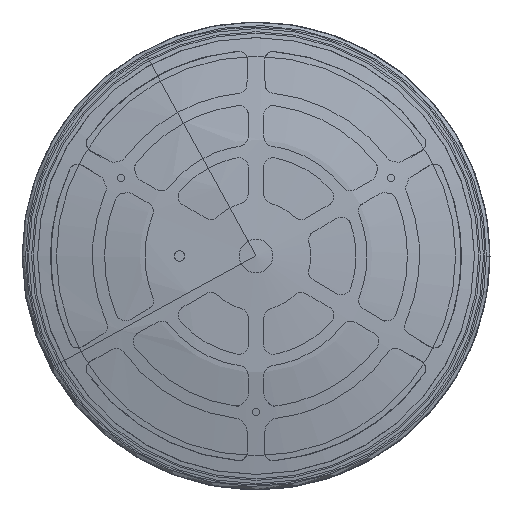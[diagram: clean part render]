
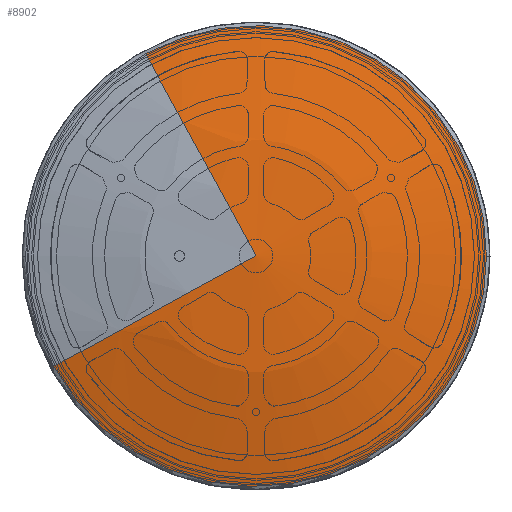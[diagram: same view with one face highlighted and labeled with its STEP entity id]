
A CAD part, top view. The second image highlights one B-rep face of the part: STEP entity #8902.
In plain terms, the highlighted spherical face has radius 285 mm.
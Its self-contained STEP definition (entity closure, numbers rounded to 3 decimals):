
#8801=CARTESIAN_POINT('Vertex',(-35.41,64.817,12.263)) ;
#8804=CARTESIAN_POINT('Axis2P3D Location',(0.,0.,12.263)) ;
#8808=CARTESIAN_POINT('Vertex',(64.817,35.41,12.263)) ;
#8811=CARTESIAN_POINT('Axis2P3D Location',(0.,0.,12.263)) ;
#8815=CARTESIAN_POINT('Vertex',(73.859,0.,12.263)) ;
#8837=CARTESIAN_POINT('Axis2P3D Location',(0.,0.,12.263)) ;
#8841=CARTESIAN_POINT('Vertex',(35.41,-64.817,12.263)) ;
#8844=CARTESIAN_POINT('Axis2P3D Location',(0.,0.,12.263)) ;
#8848=CARTESIAN_POINT('Vertex',(-64.817,-35.41,12.263)) ;
#8870=CARTESIAN_POINT('Axis2P3D Location',(0.,0.,-263.)) ;
#8874=CARTESIAN_POINT('Vertex',(0.,0.,22.)) ;
#8877=CARTESIAN_POINT('Axis2P3D Location',(0.,0.,-263.)) ;
#8889=CARTESIAN_POINT('Axis2P3D Location',(0.,0.,-263.)) ;
#8805=DIRECTION('Axis2P3D Direction',(0.,0.,-1.)) ;
#8812=DIRECTION('Axis2P3D Direction',(0.,0.,-1.)) ;
#8838=DIRECTION('Axis2P3D Direction',(0.,0.,-1.)) ;
#8845=DIRECTION('Axis2P3D Direction',(0.,0.,-1.)) ;
#8871=DIRECTION('Axis2P3D Direction',(-0.479,0.878,0.)) ;
#8878=DIRECTION('Axis2P3D Direction',(0.878,0.479,0.)) ;
#8890=DIRECTION('Axis2P3D Direction',(0.,0.,1.)) ;
#8891=DIRECTION('Axis2P3D XDirection',(0.479,-0.878,0.)) ;
#8806=AXIS2_PLACEMENT_3D('Circle Axis2P3D',#8804,#8805,$) ;
#8813=AXIS2_PLACEMENT_3D('Circle Axis2P3D',#8811,#8812,$) ;
#8839=AXIS2_PLACEMENT_3D('Circle Axis2P3D',#8837,#8838,$) ;
#8846=AXIS2_PLACEMENT_3D('Circle Axis2P3D',#8844,#8845,$) ;
#8872=AXIS2_PLACEMENT_3D('Circle Axis2P3D',#8870,#8871,$) ;
#8879=AXIS2_PLACEMENT_3D('Circle Axis2P3D',#8877,#8878,$) ;
#8892=AXIS2_PLACEMENT_3D('Sphere Axis2P3D',#8889,#8890,#8891) ;
#8895=ORIENTED_EDGE('',*,*,#8876,.F.) ;
#8896=ORIENTED_EDGE('',*,*,#8850,.F.) ;
#8897=ORIENTED_EDGE('',*,*,#8843,.F.) ;
#8898=ORIENTED_EDGE('',*,*,#8817,.F.) ;
#8899=ORIENTED_EDGE('',*,*,#8810,.F.) ;
#8900=ORIENTED_EDGE('',*,*,#8881,.T.) ;
#8902=ADVANCED_FACE('\X2\96F64EF651E04F554F53\X0\',(#8901),#8893,.T.) ;
#8807=CIRCLE('generated circle',#8806,73.859) ;
#8814=CIRCLE('generated circle',#8813,73.859) ;
#8840=CIRCLE('generated circle',#8839,73.859) ;
#8847=CIRCLE('generated circle',#8846,73.859) ;
#8873=CIRCLE('generated circle',#8872,285.) ;
#8880=CIRCLE('generated circle',#8879,285.) ;
#8810=EDGE_CURVE('',#8802,#8809,#8807,.T.) ;
#8817=EDGE_CURVE('',#8809,#8816,#8814,.T.) ;
#8843=EDGE_CURVE('',#8816,#8842,#8840,.T.) ;
#8850=EDGE_CURVE('',#8842,#8849,#8847,.T.) ;
#8876=EDGE_CURVE('',#8849,#8875,#8873,.T.) ;
#8881=EDGE_CURVE('',#8802,#8875,#8880,.T.) ;
#8894=EDGE_LOOP('',(#8895,#8896,#8897,#8898,#8899,#8900)) ;
#8901=FACE_OUTER_BOUND('',#8894,.T.) ;
#8893=SPHERICAL_SURFACE('',#8892,285.) ;
#8802=VERTEX_POINT('',#8801) ;
#8809=VERTEX_POINT('',#8808) ;
#8816=VERTEX_POINT('',#8815) ;
#8842=VERTEX_POINT('',#8841) ;
#8849=VERTEX_POINT('',#8848) ;
#8875=VERTEX_POINT('',#8874) ;
